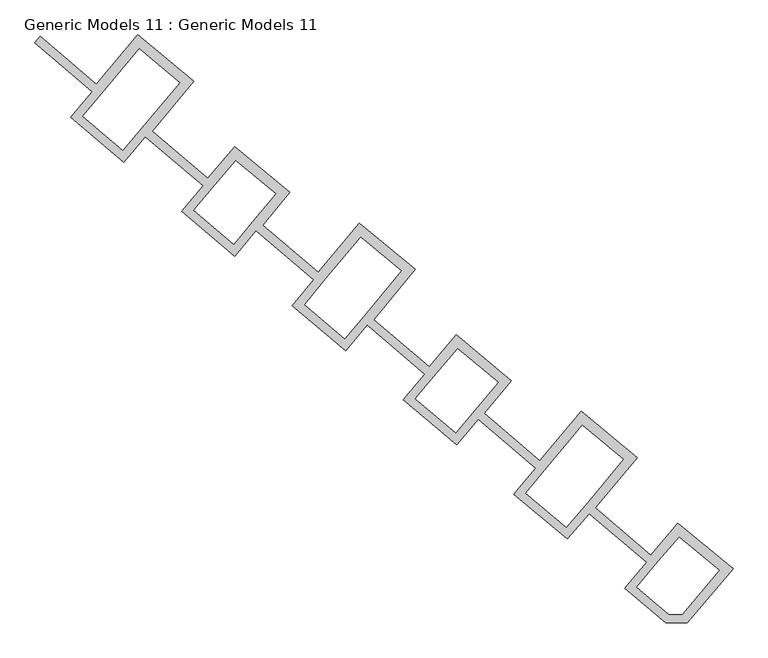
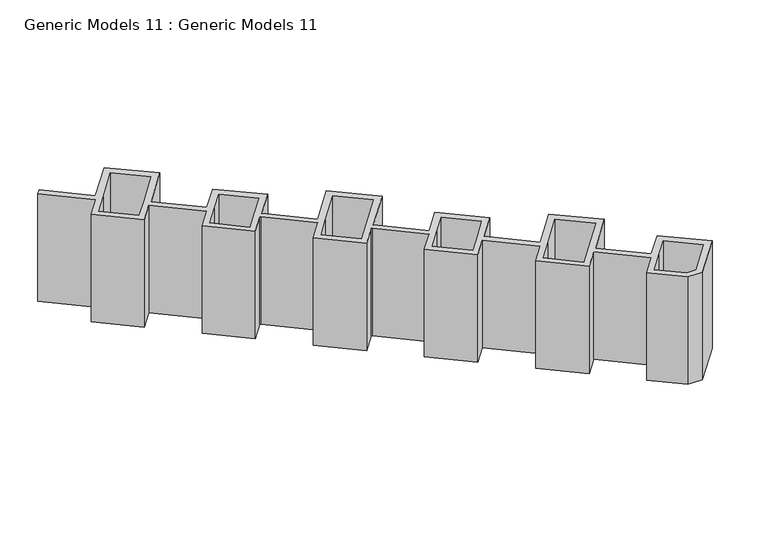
"""IFC4 building model written with IfcOpenShell, lengths in millimetres: proxy geometry, Generic Models 11 : Generic Models 11."""

from ifc_helpers import new_model, si_unit, origin, origin_with_axes, place, context, project, spatial, polyline, outline, extrude, source, transform, mapped, element, save


def generic_models_11_generic_models_11_d0e6dff3(model_context):
    return source(origin(), model_context, "Body", "SweptSolid", [
        extrude(outline(polyline([(898455.8611297, -22041.6541892), (902713.9544108, -25557.9422362), (899545.5212832, -29365.220797), (903759.9743739, -32955.2886678), (905820.5036209, -30528.7308449), (910013.9399795, -34008.9488621), (907941.7408826, -36505.8139988), (912164.9076276, -40100.4515958), (915304.9340039, -36353.6079819), (919563.0272849, -39869.8960289), (916394.5941574, -43677.1745897), (920609.047248, -47267.2424605), (922669.576495, -44840.6846375), (926863.0128536, -48320.9026547), (923375.8040341, -52426.6925663), (921746.331821, -52409.4346462), (918638.77523, -49805.1600441), (920291.1914195, -47833.4106684), (915910.9480729, -44112.2347309), (914268.3001564, -46045.9123832), (910198.0624451, -42634.8669573), (911850.4964475, -40663.1109629), (907480.8935934, -36951.1587585), (905838.8638, -38884.1087741), (901797.4065991, -35451.2107657), (903439.6506436, -33517.8416406), (899132.2884982, -29850.5812787), (899044.3708208, -29775.688926), (897410.5750772, -31725.2194124), (893333.3992369, -28308.3595168), (894998.2295588, -26348.4001832), (890680.36752, -22680.0131443), (890593.5180707, -22606.241415), (888971.1908738, -24555.6938122), (884949.0827745, -21139.2313341), (886590.2408354, -19207.1407079), (882187.625141, -15467.1442877), (880546.5125613, -17399.0145861), (876524.5823219, -13982.4082453), (878152.7575975, -12039.5843952), (873788.5080338, -8332.4998237), (874201.2023744, -7846.681428), (878470.4190243, -11473.0430612), (881607.2107154, -7730.0592427), (885865.3039965, -11246.3472897), (882696.8708689, -15053.6258505), (886911.3239596, -18643.6937213), (888971.8532066, -16217.1358984), (893165.2895652, -19697.3539156), (891093.0904683, -22194.2190523), (895319.4534006, -25784.1798442), (898455.8611297, -22041.6541892)]), holes=[polyline([(888893.1071513, -23652.9982973), (890509.8985231, -21710.2162094), (892099.5754516, -19794.7589026), (889064.4984411, -17278.8997967), (887488.7333637, -19134.005047), (885847.7030746, -21065.9452508), (888893.1071513, -23652.9982973)]), polyline([(898962.9836938, -28880.4305809), (901639.9193961, -25663.7491811), (898556.8234326, -23101.0921982), (895896.7005304, -26275.2899003), (894295.927081, -28242.0009344), (897341.3311576, -30829.0539809), (898962.9836938, -28880.4305809)]), polyline([(905913.1488554, -31590.4947432), (904337.6885894, -33445.2411473), (902695.9167056, -35378.0544105), (905765.7281391, -37985.6162459), (907407.7547495, -36052.6699771), (908997.4316785, -34137.2126697), (905913.1488554, -31590.4947432)]), polyline([(918519.636332, -39991.1876598), (915405.8963159, -37413.0459984), (912745.7456526, -40587.2621955), (911096.0683949, -42555.7433347), (914192.4313883, -45150.6371898), (915837.8400986, -43213.7096107), (918519.636332, -39991.1876598)]), polyline([(921981.0431044, -51774.4397457), (923002.9938128, -51785.2633385), (925797.29874, -48418.3076417), (922762.2217295, -45902.4485358), (921186.4566521, -47757.5537861), (919536.7793943, -49726.0349253), (921981.0431044, -51774.4397457)]), polyline([(882114.3332795, -14568.8356344), (884791.2689818, -11352.1542346), (881708.1730183, -8789.4972517), (879048.0501161, -11963.6949538), (877419.8575154, -13906.5394772), (880473.3944794, -16500.5013642), (882114.3332795, -14568.8356344)])]), origin_with_axes(), (0.0, 0.0, 1.0), 12840.3304208),
    ])


if __name__ == "__main__":
    model = new_model("IFC4")
    model_context = context("Model", 3, world=origin())
    ifc_project = project(units=[si_unit("LENGTHUNIT", "METRE", prefix="MILLI")], contexts=[model_context])
    site = spatial("IfcSite", under=ifc_project)
    building = spatial("IfcBuilding", under=site)
    placement = place(None, origin())
    generic_models_11_generic_models_11_shape = generic_models_11_generic_models_11_d0e6dff3(model_context)
    element("IfcBuildingElementProxy", 1, Name="Generic Models 11 : Generic Models 11", ObjectType="Generic Models 11 : Generic Models 11", at=placement, inside=building, context=model_context, shape_type="MappedRepresentation", body=[
        mapped(generic_models_11_generic_models_11_shape, transform((0.0, 0.0, 0.0), x_axis=(1.0, 0.0, 0.0), y_axis=(0.0, 1.0, 0.0), z_axis=(0.0, 0.0, 1.0))),
    ])
    save(model, "model.ifc")
